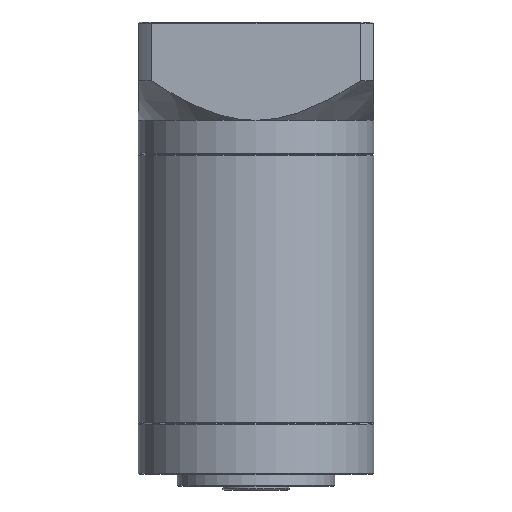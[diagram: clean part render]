
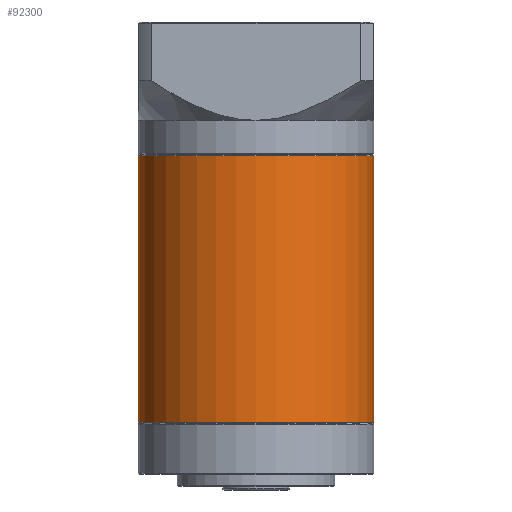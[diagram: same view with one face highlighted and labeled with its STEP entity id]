
A CAD part, front view. The second image highlights one B-rep face of the part: STEP entity #92300.
In plain terms, the highlighted cylindrical face has radius 30 mm (diameter 60 mm), a partial arc.
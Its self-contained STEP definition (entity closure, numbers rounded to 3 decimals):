
#346 = DIRECTION ( 'NONE',  ( 0., 0., -1. ) ) ;
#1566 = EDGE_CURVE ( 'NONE', #82024, #20368, #6670, .T. ) ;
#2489 = EDGE_CURVE ( 'NONE', #18040, #16300, #10215, .T. ) ;
#6670 = CIRCLE ( 'NONE', #72452, 30. ) ;
#10215 = CIRCLE ( 'NONE', #96019, 30. ) ;
#11424 = CARTESIAN_POINT ( 'NONE',  ( -15.871, 11.045, 53.9 ) ) ;
#11690 = LINE ( 'NONE', #25093, #71230 ) ;
#11692 = ORIENTED_EDGE ( 'NONE', *, *, #1566, .T. ) ;
#13391 = ORIENTED_EDGE ( 'NONE', *, *, #49431, .T. ) ;
#15029 = LINE ( 'NONE', #84560, #74613 ) ;
#15442 = FACE_OUTER_BOUND ( 'NONE', #21378, .T. ) ;
#16300 = VERTEX_POINT ( 'NONE', #71243 ) ;
#18040 = VERTEX_POINT ( 'NONE', #54574 ) ;
#20368 = VERTEX_POINT ( 'NONE', #51835 ) ;
#21378 = EDGE_LOOP ( 'NONE', ( #29586, #95907, #13391, #11692 ) ) ;
#23197 = AXIS2_PLACEMENT_3D ( 'NONE', #96652, #57506, #50007 ) ;
#25093 = CARTESIAN_POINT ( 'NONE',  ( 14.129, 11.045, 121.95 ) ) ;
#29586 = ORIENTED_EDGE ( 'NONE', *, *, #92661, .F. ) ;
#31751 = DIRECTION ( 'NONE',  ( 0., 0., 1. ) ) ;
#40729 = CARTESIAN_POINT ( 'NONE',  ( -45.871, 11.045, 53.9 ) ) ;
#46848 = CARTESIAN_POINT ( 'NONE',  ( -15.871, 11.045, 121.7 ) ) ;
#49431 = EDGE_CURVE ( 'NONE', #16300, #82024, #15029, .T. ) ;
#50007 = DIRECTION ( 'NONE',  ( -1., 0., 0. ) ) ;
#51098 = DIRECTION ( 'NONE',  ( 1., 0., 0. ) ) ;
#51835 = CARTESIAN_POINT ( 'NONE',  ( 14.129, 11.045, 53.9 ) ) ;
#54574 = CARTESIAN_POINT ( 'NONE',  ( 14.129, 11.045, 121.7 ) ) ;
#54689 = DIRECTION ( 'NONE',  ( 1., 0., 0. ) ) ;
#57506 = DIRECTION ( 'NONE',  ( 0., 0., -1. ) ) ;
#67695 = CYLINDRICAL_SURFACE ( 'NONE', #23197, 30. ) ;
#71230 = VECTOR ( 'NONE', #79507, 1000. ) ;
#71243 = CARTESIAN_POINT ( 'NONE',  ( -45.871, 11.045, 121.7 ) ) ;
#72452 = AXIS2_PLACEMENT_3D ( 'NONE', #11424, #31751, #51098 ) ;
#74613 = VECTOR ( 'NONE', #92403, 1000. ) ;
#79507 = DIRECTION ( 'NONE',  ( 0., 0., -1. ) ) ;
#82024 = VERTEX_POINT ( 'NONE', #40729 ) ;
#84560 = CARTESIAN_POINT ( 'NONE',  ( -45.871, 11.045, 121.95 ) ) ;
#92300 = ADVANCED_FACE ( 'NONE', ( #15442 ), #67695, .T. ) ;
#92403 = DIRECTION ( 'NONE',  ( 0., 0., -1. ) ) ;
#92661 = EDGE_CURVE ( 'NONE', #18040, #20368, #11690, .T. ) ;
#95907 = ORIENTED_EDGE ( 'NONE', *, *, #2489, .T. ) ;
#96019 = AXIS2_PLACEMENT_3D ( 'NONE', #46848, #346, #54689 ) ;
#96652 = CARTESIAN_POINT ( 'NONE',  ( -15.871, 11.045, 121.95 ) ) ;
